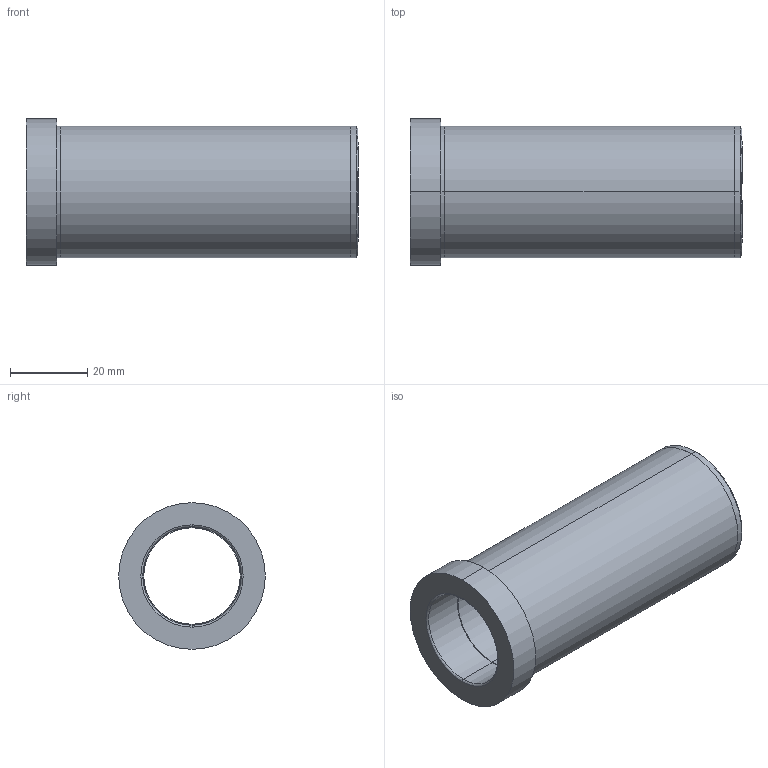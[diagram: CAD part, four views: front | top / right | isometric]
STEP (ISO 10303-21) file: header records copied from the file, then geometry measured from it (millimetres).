
FILE_DESCRIPTION( ( 'STEP AP203' ), '1' );
FILE_NAME( 'C:/Projects/D20 - 25x86.step', '2002-12-31T23:47:08', ( ' ' ), ( ' ' ), 'XStep 1.0', ' ', ' ' );
FILE_SCHEMA( ( 'CONFIG_CONTROL_DESIGN' ) );
Length unit declared in the file: metre
Products named in the file (1): 1
Bounding box: 86 x 38 x 38 mm (x, y, z)
Volume: 37515.7 mm3; surface area: 17286.1 mm2
Topology: 1 solids, 1 shells, 24 faces, 48 edges, 30 vertices
Faces by surface type: revolution 14, bspline 10
Entity records: 755 total; most frequent: CARTESIAN_POINT 221, ORIENTED_EDGE 96, DIRECTION 90, EDGE_CURVE 48, AXIS2_PLACEMENT_3D 31, EDGE_LOOP 30, VERTEX_POINT 30, CIRCLE 30
